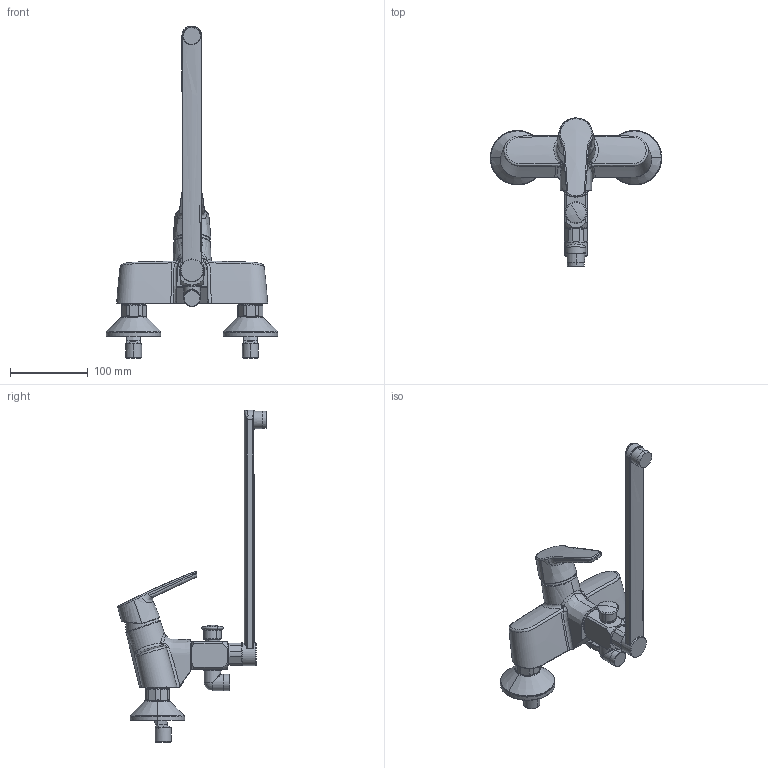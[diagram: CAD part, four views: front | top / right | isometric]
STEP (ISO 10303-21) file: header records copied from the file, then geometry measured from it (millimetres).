
FILE_DESCRIPTION (( 'STEP AP203' ), '1' );
FILE_NAME ('3942Y(2016).STEP', '2019-03-18T07:32:29', ( '' ), ( '' ), 'SwSTEP 2.0', 'SolidWorks 2016', '' );
FILE_SCHEMA (( 'CONFIG_CONTROL_DESIGN' ));
Length unit declared in the file: millimetre
Products named in the file (1): 3942Y(2016)
Bounding box: 220 x 190.57 x 426.07 mm (x, y, z)
Volume: 708908.9 mm3; surface area: 130600.8 mm2
Topology: 1 solids, 3 shells, 386 faces, 931 edges, 578 vertices
Faces by surface type: cylinder 101, bspline 100, cone 85, plane 81, torus 16, sphere 3
Entity records: 40560 total; most frequent: CARTESIAN_POINT 32316, ORIENTED_EDGE 1848, DIRECTION 1490, EDGE_CURVE 924, AXIS2_PLACEMENT_3D 641, VERTEX_POINT 578, EDGE_LOOP 420, ADVANCED_FACE 386
